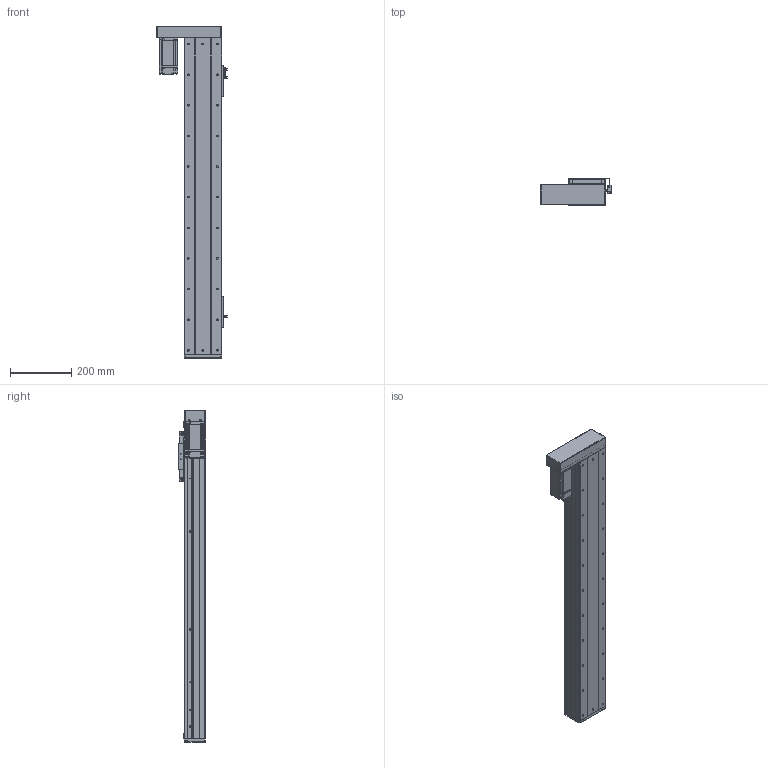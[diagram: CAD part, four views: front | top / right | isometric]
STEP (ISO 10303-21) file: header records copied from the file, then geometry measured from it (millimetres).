
FILE_DESCRIPTION (( 'STEP AP203' ), '1' );
FILE_NAME ('RY120F-L1620-300-LK.SLDASM_800.step', '2021-03-02T08:04:10', ( '盈信电脑' ), ( '东莞市道滘镇水果街19号' ), 'SwSTEP 2.0', 'SolidWorks 2012', '' );
FILE_SCHEMA (( 'CONFIG_CONTROL_DESIGN' ));
Length unit declared in the file: millimetre
Products named in the file (18): RY120F-L1620-300-LK.SLDASM_800; RY120F酘衵殏萇儂啣(200W PCD70 M4); RY120F酘衵殏萇儂欶(200W); FY120F詩湍揤踡輸; RY80俋离覜茼え; 672嫖萇羲壽假蚾釱; 15; RY120F綴裔啣(臏璃ㄘ; RY120F-詩湍幗謫粣; 覜茼ん672; 滅袉蝶18-24; RY120F祥凄詩滅鳥裔; RY120F转折电机端支撑座; RT120F-臏賑輸 16蹟譫; RT120F-臏賑輸奻釱; RT120F-300-倰第菁釱-LK_800; RY120F滅鳥詩湍-300-LK_800; RT120F-300-倰第裔啣-LK_800
Assembly tree (23 placements, depth 2):
  RY120F-L1620-300-LK.SLDASM_800
    RT120F-300-倰第菁釱-LK_800
    RT120F-300-倰第裔啣-LK_800  x2
    RY120F滅鳥詩湍-300-LK_800
    RT120F-臏賑輸 16蹟譫
    RT120F-臏賑輸奻釱
    RY120F转折电机端支撑座
    RY120F祥凄詩滅鳥裔
    滅袉蝶18-24  x2
    RY120F綴裔啣(臏璃ㄘ
    RY120F-詩湍幗謫粣
    覜茼ん672  x3
    672嫖萇羲壽假蚾釱  x2
    RY80俋离覜茼え
    FY120F詩湍揤踡輸  x2
    15
    RY120F酘衵殏萇儂啣(200W PCD70 M4)
    RY120F酘衵殏萇儂欶(200W)
Bounding box: 229.9 x 89 x 1084 mm (x, y, z)
Volume: 3746226.7 mm3; surface area: 1375407.2 mm2
Topology: 23 solids, 23 shells, 2139 faces, 5737 edges, 3643 vertices
Faces by surface type: cylinder 968, plane 896, cone 249, bspline 26
Entity records: 60083 total; most frequent: CARTESIAN_POINT 11122, DIRECTION 10149, ORIENTED_EDGE 9474, EDGE_CURVE 4737, AXIS2_PLACEMENT_3D 3682, VERTEX_POINT 3087, VECTOR 2785, LINE 2785
